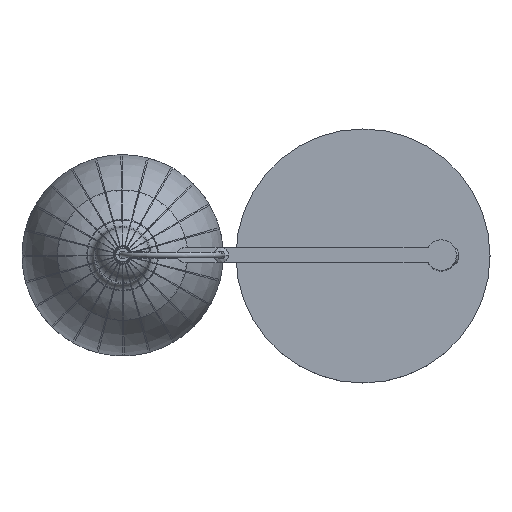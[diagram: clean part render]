
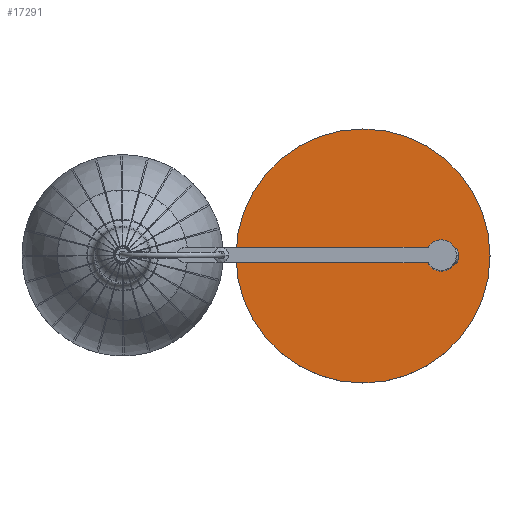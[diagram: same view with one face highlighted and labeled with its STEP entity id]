
A CAD part, top view. The second image highlights one B-rep face of the part: STEP entity #17291.
In plain terms, the highlighted planar face has unit normal (0, 0, 1).
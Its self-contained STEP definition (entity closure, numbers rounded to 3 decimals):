
#25=FACE_BOUND('',#4155,.T.);
#2410=PLANE('',#19108);
#3268=FACE_OUTER_BOUND('',#4154,.T.);
#4154=EDGE_LOOP('',(#15959,#15960));
#4155=EDGE_LOOP('',(#15961,#15962));
#6144=CIRCLE('',#19102,125.);
#6146=CIRCLE('',#19105,125.);
#6148=CIRCLE('',#19109,15.);
#6149=CIRCLE('',#19110,15.);
#8188=VERTEX_POINT('',#41753);
#8189=VERTEX_POINT('',#41754);
#8192=VERTEX_POINT('',#41766);
#8193=VERTEX_POINT('',#41767);
#10997=EDGE_CURVE('',#8188,#8189,#6144,.T.);
#11001=EDGE_CURVE('',#8189,#8188,#6146,.T.);
#11003=EDGE_CURVE('',#8192,#8193,#6148,.T.);
#11004=EDGE_CURVE('',#8193,#8192,#6149,.T.);
#15959=ORIENTED_EDGE('',*,*,#11001,.T.);
#15960=ORIENTED_EDGE('',*,*,#10997,.T.);
#15961=ORIENTED_EDGE('',*,*,#11003,.F.);
#15962=ORIENTED_EDGE('',*,*,#11004,.F.);
#17291=ADVANCED_FACE('',(#3268,#25),#2410,.T.);
#19102=AXIS2_PLACEMENT_3D('',#41755,#23499,#23500);
#19105=AXIS2_PLACEMENT_3D('',#41762,#23507,#23508);
#19108=AXIS2_PLACEMENT_3D('',#41765,#23513,#23514);
#19109=AXIS2_PLACEMENT_3D('',#41768,#23515,#23516);
#19110=AXIS2_PLACEMENT_3D('',#41769,#23517,#23518);
#23499=DIRECTION('center_axis',(0.,0.,1.));
#23500=DIRECTION('ref_axis',(1.,0.,0.));
#23507=DIRECTION('center_axis',(0.,0.,1.));
#23508=DIRECTION('ref_axis',(1.,0.,0.));
#23513=DIRECTION('center_axis',(0.,0.,1.));
#23514=DIRECTION('ref_axis',(0.,1.,0.));
#23515=DIRECTION('center_axis',(0.,0.,1.));
#23516=DIRECTION('ref_axis',(1.,0.,0.));
#23517=DIRECTION('center_axis',(0.,0.,1.));
#23518=DIRECTION('ref_axis',(1.,0.,0.));
#41753=CARTESIAN_POINT('',(125.,0.,21.));
#41754=CARTESIAN_POINT('',(-125.,0.,21.));
#41755=CARTESIAN_POINT('Origin',(0.,0.,21.));
#41762=CARTESIAN_POINT('Origin',(0.,0.,21.));
#41765=CARTESIAN_POINT('Origin',(125.,0.,21.));
#41766=CARTESIAN_POINT('',(62.086,0.,21.));
#41767=CARTESIAN_POINT('',(92.086,0.,21.));
#41768=CARTESIAN_POINT('Origin',(77.086,0.,
21.));
#41769=CARTESIAN_POINT('Origin',(77.086,0.,
21.));
